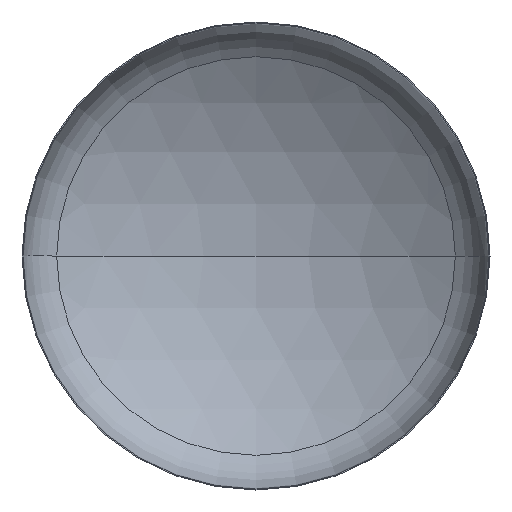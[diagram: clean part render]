
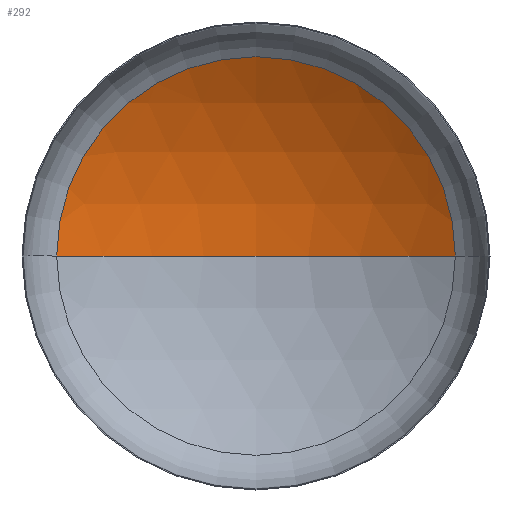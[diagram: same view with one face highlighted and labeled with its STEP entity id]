
A CAD part, front view. The second image highlights one B-rep face of the part: STEP entity #292.
In plain terms, the highlighted spherical face has radius 5600 mm.
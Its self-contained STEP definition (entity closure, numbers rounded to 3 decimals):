
#3 = ORIENTED_EDGE ( 'NONE', *, *, #150, .F. ) ;
#6 = VERTEX_POINT ( 'NONE', #29 ) ;
#7 = DIRECTION ( 'NONE',  ( 0., -1., 0. ) ) ;
#13 = CARTESIAN_POINT ( 'NONE',  ( 0., 959.28, 0. ) ) ;
#29 = CARTESIAN_POINT ( 'NONE',  ( -2980.885, 959.28, 0. ) ) ;
#35 = AXIS2_PLACEMENT_3D ( 'NONE', #262, #252, #351 ) ;
#58 = CARTESIAN_POINT ( 'NONE',  ( 0., -3781.43, 0. ) ) ;
#75 = ORIENTED_EDGE ( 'NONE', *, *, #146, .T. ) ;
#77 = CIRCLE ( 'NONE', #103, 2980.885 ) ;
#85 = EDGE_LOOP ( 'NONE', ( #3, #92, #75 ) ) ;
#89 = AXIS2_PLACEMENT_3D ( 'NONE', #152, #319, #169 ) ;
#92 = ORIENTED_EDGE ( 'NONE', *, *, #147, .T. ) ;
#98 = AXIS2_PLACEMENT_3D ( 'NONE', #58, #385, #174 ) ;
#103 = AXIS2_PLACEMENT_3D ( 'NONE', #13, #7, #161 ) ;
#113 = VERTEX_POINT ( 'NONE', #229 ) ;
#146 = EDGE_CURVE ( 'NONE', #113, #6, #77, .T. ) ;
#147 = EDGE_CURVE ( 'NONE', #397, #113, #258, .T. ) ;
#150 = EDGE_CURVE ( 'NONE', #397, #6, #372, .T. ) ;
#152 = CARTESIAN_POINT ( 'NONE',  ( 0., -3781.43, 0. ) ) ;
#161 = DIRECTION ( 'NONE',  ( 1., 0., 0. ) ) ;
#169 = DIRECTION ( 'NONE',  ( 1., 0., 0. ) ) ;
#174 = DIRECTION ( 'NONE',  ( -1., 0., 0. ) ) ;
#229 = CARTESIAN_POINT ( 'NONE',  ( 2980.885, 959.28, 0. ) ) ;
#252 = DIRECTION ( 'NONE',  ( 0., 0., -1. ) ) ;
#258 = CIRCLE ( 'NONE', #98, 5600. ) ;
#262 = CARTESIAN_POINT ( 'NONE',  ( 0., -3781.43, 0. ) ) ;
#282 = SPHERICAL_SURFACE ( 'NONE', #35, 5600. ) ;
#290 = CARTESIAN_POINT ( 'NONE',  ( 0., 1818.57, 0. ) ) ;
#292 = ADVANCED_FACE ( 'NONE', ( #344 ), #282, .F. ) ;
#319 = DIRECTION ( 'NONE',  ( 0., 0., 1. ) ) ;
#344 = FACE_OUTER_BOUND ( 'NONE', #85, .T. ) ;
#351 = DIRECTION ( 'NONE',  ( -1., 0., 0. ) ) ;
#372 = CIRCLE ( 'NONE', #89, 5600. ) ;
#385 = DIRECTION ( 'NONE',  ( 0., 0., -1. ) ) ;
#397 = VERTEX_POINT ( 'NONE', #290 ) ;
